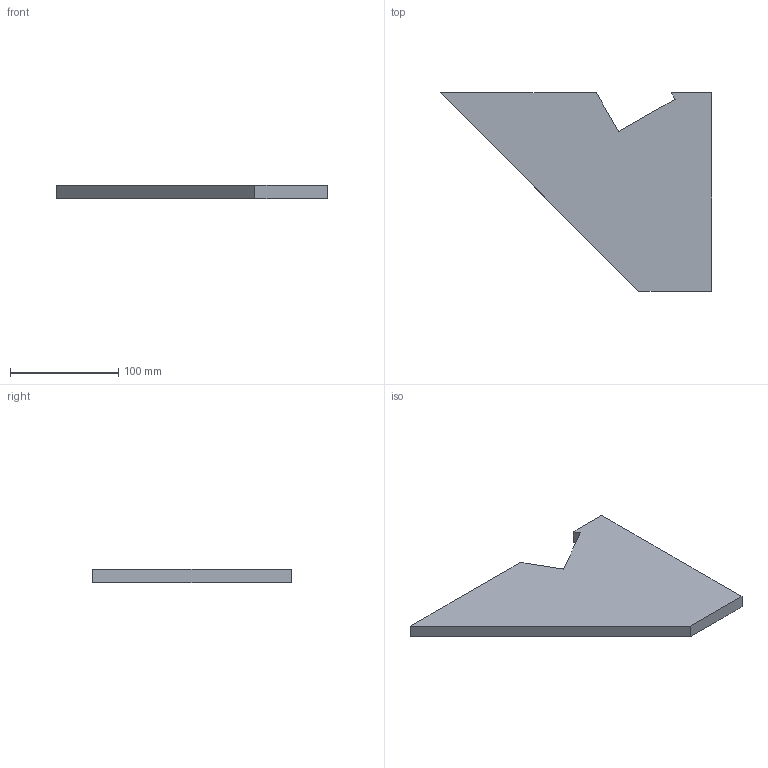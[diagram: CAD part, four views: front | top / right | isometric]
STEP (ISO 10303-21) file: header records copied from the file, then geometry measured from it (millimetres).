
FILE_DESCRIPTION(('Open CASCADE Model'),'2;1');
FILE_NAME('Open CASCADE Shape Model','2026-10-19T10:09:19',('Author'),( 'Open CASCADE'),'Open CASCADE STEP processor 8.0','Open CASCADE 8.0' ,'Unknown');
FILE_SCHEMA(('AUTOMOTIVE_DESIGN { 1 0 10303 214 1 1 1 1 }'));
Length unit declared in the file: millimetre
Products named in the file (1): U02_CARTELA_BRL-B-1_0_P05 42
Bounding box: 250 x 183 x 12 mm (x, y, z)
Volume: 330732.8 mm3; surface area: 64695.6 mm2
Topology: 1 solids, 1 shells, 10 faces, 24 edges, 16 vertices
Faces by surface type: plane 10
Entity records: 610 total; most frequent: CARTESIAN_POINT 99, DIRECTION 94, LINE 72, VECTOR 72, ORIENTED_EDGE 48, PCURVE 48, DEFINITIONAL_REPRESENTATION 48, EDGE_CURVE 24
